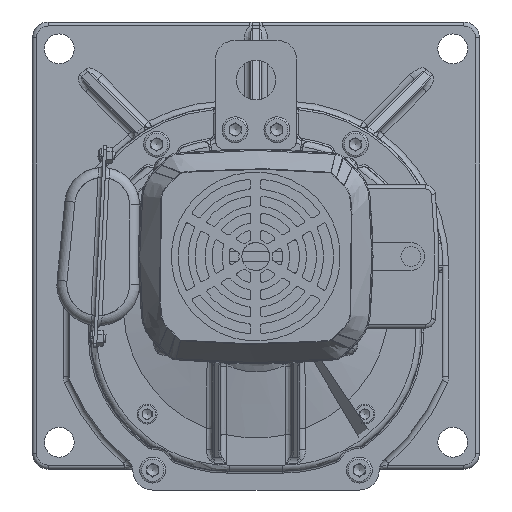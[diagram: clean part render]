
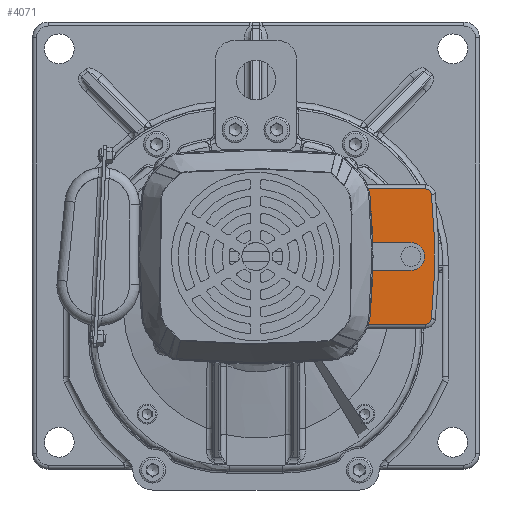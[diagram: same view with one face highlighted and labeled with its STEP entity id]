
A CAD part, front view. The second image highlights one B-rep face of the part: STEP entity #4071.
In plain terms, the highlighted planar face has unit normal (0, -1, 0).
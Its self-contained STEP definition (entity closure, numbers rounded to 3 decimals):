
#4071 = ADVANCED_FACE( '', ( #9759, #9760 ), #9761, .T. );
#9759 = FACE_OUTER_BOUND( '', #24520, .T. );
#9760 = FACE_BOUND( '', #24521, .T. );
#9761 = PLANE( '', #24522 );
#24520 = EDGE_LOOP( '', ( #49204, #49205, #49206, #49207, #49208, #49209, #49210, #49211, #49212, #49213 ) );
#24521 = EDGE_LOOP( '', ( #49214, #49215, #49216, #49217 ) );
#24522 = AXIS2_PLACEMENT_3D( '', #49218, #49219, #49220 );
#49204 = ORIENTED_EDGE( '', *, *, #65869, .F. );
#49205 = ORIENTED_EDGE( '', *, *, #65870, .T. );
#49206 = ORIENTED_EDGE( '', *, *, #65871, .T. );
#49207 = ORIENTED_EDGE( '', *, *, #65507, .T. );
#49208 = ORIENTED_EDGE( '', *, *, #62077, .T. );
#49209 = ORIENTED_EDGE( '', *, *, #65872, .T. );
#49210 = ORIENTED_EDGE( '', *, *, #63490, .F. );
#49211 = ORIENTED_EDGE( '', *, *, #65873, .F. );
#49212 = ORIENTED_EDGE( '', *, *, #63388, .F. );
#49213 = ORIENTED_EDGE( '', *, *, #63955, .F. );
#49214 = ORIENTED_EDGE( '', *, *, #65874, .T. );
#49215 = ORIENTED_EDGE( '', *, *, #65875, .T. );
#49216 = ORIENTED_EDGE( '', *, *, #65876, .T. );
#49217 = ORIENTED_EDGE( '', *, *, #65877, .T. );
#49218 = CARTESIAN_POINT( '', ( 91.098, -6.147, -36.512 ) );
#49219 = DIRECTION( '', ( 0., -1., 0. ) );
#49220 = DIRECTION( '', ( 1., 0., 0. ) );
#62077 = EDGE_CURVE( '', #69820, #69818, #69821, .T. );
#63388 = EDGE_CURVE( '', #72100, #72102, #72103, .T. );
#63490 = EDGE_CURVE( '', #72269, #72270, #72271, .T. );
#63955 = EDGE_CURVE( '', #73029, #72100, #73031, .T. );
#65507 = EDGE_CURVE( '', #75488, #69820, #75489, .T. );
#65869 = EDGE_CURVE( '', #76018, #73029, #76019, .T. );
#65870 = EDGE_CURVE( '', #76018, #76020, #76021, .T. );
#65871 = EDGE_CURVE( '', #76020, #75488, #76022, .T. );
#65872 = EDGE_CURVE( '', #69818, #72270, #76023, .T. );
#65873 = EDGE_CURVE( '', #72102, #72269, #76024, .T. );
#65874 = EDGE_CURVE( '', #76025, #76026, #76027, .T. );
#65875 = EDGE_CURVE( '', #76026, #76028, #76029, .T. );
#65876 = EDGE_CURVE( '', #76028, #76030, #76031, .T. );
#65877 = EDGE_CURVE( '', #76030, #76025, #76032, .T. );
#69818 = VERTEX_POINT( '', #81093 );
#69820 = VERTEX_POINT( '', #81095 );
#69821 = CIRCLE( '', #81096, 3. );
#72100 = VERTEX_POINT( '', #86091 );
#72102 = VERTEX_POINT( '', #86094 );
#72103 = LINE( '', #86095, #86096 );
#72269 = VERTEX_POINT( '', #86571 );
#72270 = VERTEX_POINT( '', #86572 );
#72271 = LINE( '', #86573, #86574 );
#73029 = VERTEX_POINT( '', #87949 );
#73031 = LINE( '', #87952, #87953 );
#75488 = VERTEX_POINT( '', #93298 );
#75489 = CIRCLE( '', #93299, 298. );
#76018 = VERTEX_POINT( '', #94547 );
#76019 = LINE( '', #94548, #94549 );
#76020 = VERTEX_POINT( '', #94550 );
#76021 = LINE( '', #94551, #94552 );
#76022 = CIRCLE( '', #94553, 3. );
#76023 = LINE( '', #94554, #94555 );
#76024 = LINE( '', #94556, #94557 );
#76025 = VERTEX_POINT( '', #94558 );
#76026 = VERTEX_POINT( '', #94559 );
#76027 = LINE( '', #94560, #94561 );
#76028 = VERTEX_POINT( '', #94562 );
#76029 = LINE( '', #94563, #94564 );
#76030 = VERTEX_POINT( '', #94565 );
#76031 = LINE( '', #94566, #94567 );
#76032 = CIRCLE( '', #94568, 7. );
#81093 = CARTESIAN_POINT( '', ( 91.098, -6.147, 28.488 ) );
#81095 = CARTESIAN_POINT( '', ( 94.082, -6.147, 25.803 ) );
#81096 = AXIS2_PLACEMENT_3D( '', #104923, #104924, #104925 );
#86091 = CARTESIAN_POINT( '', ( 60.231, -6.147, -27.587 ) );
#86094 = CARTESIAN_POINT( '', ( 60.231, -6.147, 13.413 ) );
#86095 = CARTESIAN_POINT( '', ( 60.231, -6.147, 13.413 ) );
#86096 = VECTOR( '', #106785, 1000. );
#86571 = CARTESIAN_POINT( '', ( 58.731, -6.147, 13.413 ) );
#86572 = CARTESIAN_POINT( '', ( 58.731, -6.147, 28.488 ) );
#86573 = CARTESIAN_POINT( '', ( 58.731, -6.147, 13.413 ) );
#86574 = VECTOR( '', #106924, 1000. );
#87949 = CARTESIAN_POINT( '', ( 58.731, -6.147, -27.587 ) );
#87952 = CARTESIAN_POINT( '', ( 60.231, -6.147, -27.587 ) );
#87953 = VECTOR( '', #107583, 1000. );
#93298 = CARTESIAN_POINT( '', ( 94.082, -6.147, -36.828 ) );
#93299 = AXIS2_PLACEMENT_3D( '', #109785, #109786, #109787 );
#94547 = CARTESIAN_POINT( '', ( 58.731, -6.147, -39.512 ) );
#94548 = CARTESIAN_POINT( '', ( 58.731, -6.147, -41.512 ) );
#94549 = VECTOR( '', #110244, 1000. );
#94550 = CARTESIAN_POINT( '', ( 91.098, -6.147, -39.512 ) );
#94551 = CARTESIAN_POINT( '', ( 91.098, -6.147, -39.512 ) );
#94552 = VECTOR( '', #110245, 1000. );
#94553 = AXIS2_PLACEMENT_3D( '', #110246, #110247, #110248 );
#94554 = CARTESIAN_POINT( '', ( 58.731, -6.147, 28.488 ) );
#94555 = VECTOR( '', #110249, 1000. );
#94556 = CARTESIAN_POINT( '', ( 58.731, -6.147, 13.413 ) );
#94557 = VECTOR( '', #110250, 1000. );
#94558 = CARTESIAN_POINT( '', ( 83.731, -6.147, -12.512 ) );
#94559 = CARTESIAN_POINT( '', ( 63.731, -6.147, -12.512 ) );
#94560 = CARTESIAN_POINT( '', ( 83.731, -6.147, -12.512 ) );
#94561 = VECTOR( '', #110251, 1000. );
#94562 = CARTESIAN_POINT( '', ( 63.731, -6.147, 1.488 ) );
#94563 = CARTESIAN_POINT( '', ( 63.731, -6.147, -12.512 ) );
#94564 = VECTOR( '', #110252, 1000. );
#94565 = CARTESIAN_POINT( '', ( 83.731, -6.147, 1.488 ) );
#94566 = CARTESIAN_POINT( '', ( 63.731, -6.147, 1.488 ) );
#94567 = VECTOR( '', #110253, 1000. );
#94568 = AXIS2_PLACEMENT_3D( '', #110254, #110255, #110256 );
#104923 = CARTESIAN_POINT( '', ( 91.098, -6.147, 25.488 ) );
#104924 = DIRECTION( '', ( 0., -1., 0. ) );
#104925 = DIRECTION( '', ( 1., 0., 0. ) );
#106785 = DIRECTION( '', ( 0., 0., 1. ) );
#106924 = DIRECTION( '', ( 0., 0., 1. ) );
#107583 = DIRECTION( '', ( 1., 0., 0. ) );
#109785 = CARTESIAN_POINT( '', ( -202.269, -6.147, -5.512 ) );
#109786 = DIRECTION( '', ( 0., -1., 0. ) );
#109787 = DIRECTION( '', ( 1., 0., 0. ) );
#110244 = DIRECTION( '', ( 0., 0., 1. ) );
#110245 = DIRECTION( '', ( 1., 0., 0. ) );
#110246 = CARTESIAN_POINT( '', ( 91.098, -6.147, -36.512 ) );
#110247 = DIRECTION( '', ( 0., -1., 0. ) );
#110248 = DIRECTION( '', ( 1., 0., 0. ) );
#110249 = DIRECTION( '', ( -1., 0., 0. ) );
#110250 = DIRECTION( '', ( -1., 0., 0. ) );
#110251 = DIRECTION( '', ( -1., 0., 0. ) );
#110252 = DIRECTION( '', ( 0., 0., 1. ) );
#110253 = DIRECTION( '', ( 1., 0., 0. ) );
#110254 = CARTESIAN_POINT( '', ( 83.731, -6.147, -5.512 ) );
#110255 = DIRECTION( '', ( 0., 1., 0. ) );
#110256 = DIRECTION( '', ( -1., 0., 0. ) );
